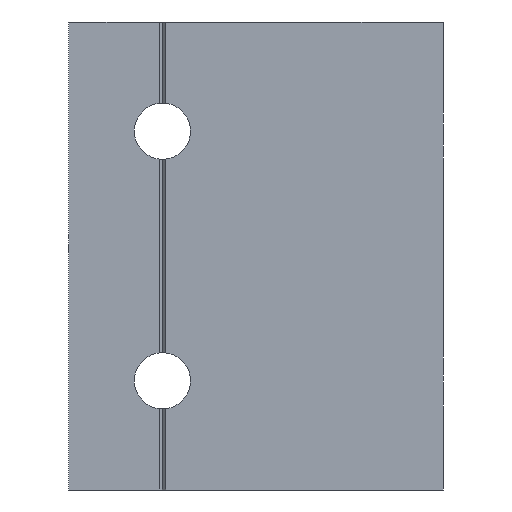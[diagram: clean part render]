
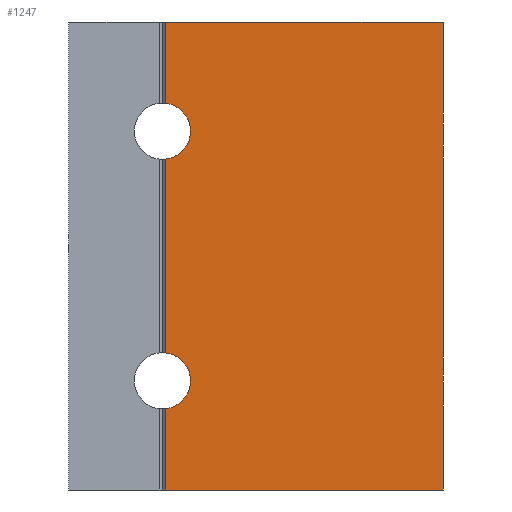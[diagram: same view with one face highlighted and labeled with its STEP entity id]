
A CAD part, left-side view. The second image highlights one B-rep face of the part: STEP entity #1247.
In plain terms, the highlighted planar face has unit normal (-1, 0, 0).
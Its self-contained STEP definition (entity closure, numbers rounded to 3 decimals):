
#1 = CARTESIAN_POINT ( 'NONE',  ( -30., 15., 7.5 ) ) ;
#25 = EDGE_CURVE ( 'NONE', #1886, #493, #2036, .T. ) ;
#88 = AXIS2_PLACEMENT_3D ( 'NONE', #1346, #555, #2142 ) ;
#112 = ORIENTED_EDGE ( 'NONE', *, *, #1434, .T. ) ;
#119 = CARTESIAN_POINT ( 'NONE',  ( -30., -30., -50. ) ) ;
#121 = CARTESIAN_POINT ( 'NONE',  ( -30., 10.5, 7.5 ) ) ;
#186 = DIRECTION ( 'NONE',  ( 1., 0., 0. ) ) ;
#211 = CIRCLE ( 'NONE', #88, 4.5 ) ;
#218 = ORIENTED_EDGE ( 'NONE', *, *, #2043, .F. ) ;
#221 = CARTESIAN_POINT ( 'NONE',  ( -30., 15., -32.5 ) ) ;
#246 = ORIENTED_EDGE ( 'NONE', *, *, #1135, .T. ) ;
#265 = VERTEX_POINT ( 'NONE', #2379 ) ;
#271 = CARTESIAN_POINT ( 'NONE',  ( -30., 14.5, -50. ) ) ;
#357 = AXIS2_PLACEMENT_3D ( 'NONE', #1818, #1256, #1478 ) ;
#364 = VERTEX_POINT ( 'NONE', #1182 ) ;
#394 = AXIS2_PLACEMENT_3D ( 'NONE', #2271, #633, #2229 ) ;
#448 = CARTESIAN_POINT ( 'NONE',  ( -30., 14.5, 25. ) ) ;
#468 = FACE_OUTER_BOUND ( 'NONE', #1592, .T. ) ;
#478 = LINE ( 'NONE', #1043, #1127 ) ;
#493 = VERTEX_POINT ( 'NONE', #271 ) ;
#524 = ORIENTED_EDGE ( 'NONE', *, *, #25, .T. ) ;
#526 = DIRECTION ( 'NONE',  ( 0., 1., 0. ) ) ;
#537 = LINE ( 'NONE', #119, #1541 ) ;
#555 = DIRECTION ( 'NONE',  ( 1., 0., 0. ) ) ;
#594 = ORIENTED_EDGE ( 'NONE', *, *, #2253, .T. ) ;
#625 = EDGE_CURVE ( 'NONE', #1757, #1822, #943, .T. ) ;
#633 = DIRECTION ( 'NONE',  ( 1., 0., 0. ) ) ;
#636 = DIRECTION ( 'NONE',  ( 0., 0., -1. ) ) ;
#662 = CARTESIAN_POINT ( 'NONE',  ( -30., 10.5, -32.5 ) ) ;
#665 = CARTESIAN_POINT ( 'NONE',  ( -30., 14.5, 25. ) ) ;
#676 = PLANE ( 'NONE',  #357 ) ;
#749 = VECTOR ( 'NONE', #636, 1000. ) ;
#779 = EDGE_CURVE ( 'NONE', #265, #2286, #2031, .T. ) ;
#833 = CARTESIAN_POINT ( 'NONE',  ( -30., 14.5, 25. ) ) ;
#848 = CARTESIAN_POINT ( 'NONE',  ( -30., 14.5, -28.028 ) ) ;
#926 = CARTESIAN_POINT ( 'NONE',  ( -30., -30., 25. ) ) ;
#943 = CIRCLE ( 'NONE', #1522, 4.5 ) ;
#1016 = DIRECTION ( 'NONE',  ( 0., 1., 0. ) ) ;
#1023 = CIRCLE ( 'NONE', #394, 4.5 ) ;
#1043 = CARTESIAN_POINT ( 'NONE',  ( -30., -30., 25. ) ) ;
#1082 = DIRECTION ( 'NONE',  ( 0., 1., 0. ) ) ;
#1127 = VECTOR ( 'NONE', #1082, 1000. ) ;
#1135 = EDGE_CURVE ( 'NONE', #2205, #1199, #2263, .T. ) ;
#1150 = ORIENTED_EDGE ( 'NONE', *, *, #1590, .T. ) ;
#1153 = AXIS2_PLACEMENT_3D ( 'NONE', #221, #186, #1016 ) ;
#1182 = CARTESIAN_POINT ( 'NONE',  ( -30., -30., 25. ) ) ;
#1199 = VERTEX_POINT ( 'NONE', #662 ) ;
#1202 = EDGE_CURVE ( 'NONE', #2286, #1757, #1023, .T. ) ;
#1231 = VERTEX_POINT ( 'NONE', #1296 ) ;
#1247 = ADVANCED_FACE ( 'NONE', ( #468 ), #676, .T. ) ;
#1256 = DIRECTION ( 'NONE',  ( -1., 0., 0. ) ) ;
#1296 = CARTESIAN_POINT ( 'NONE',  ( -30., -30., -50. ) ) ;
#1346 = CARTESIAN_POINT ( 'NONE',  ( -30., 15., -32.5 ) ) ;
#1355 = VECTOR ( 'NONE', #1604, 1000. ) ;
#1422 = DIRECTION ( 'NONE',  ( 0., 0., -1. ) ) ;
#1434 = EDGE_CURVE ( 'NONE', #1199, #1886, #211, .T. ) ;
#1478 = DIRECTION ( 'NONE',  ( 0., -1., 0. ) ) ;
#1522 = AXIS2_PLACEMENT_3D ( 'NONE', #1, #1560, #1925 ) ;
#1531 = LINE ( 'NONE', #926, #1661 ) ;
#1541 = VECTOR ( 'NONE', #526, 1000. ) ;
#1560 = DIRECTION ( 'NONE',  ( 1., 0., 0. ) ) ;
#1590 = EDGE_CURVE ( 'NONE', #364, #265, #478, .T. ) ;
#1592 = EDGE_LOOP ( 'NONE', ( #1861, #2557, #594, #246, #112, #524, #1686, #218, #1150, #2040 ) ) ;
#1604 = DIRECTION ( 'NONE',  ( 0., 0., -1. ) ) ;
#1644 = CARTESIAN_POINT ( 'NONE',  ( -30., 14.5, 3.028 ) ) ;
#1661 = VECTOR ( 'NONE', #2314, 1000. ) ;
#1686 = ORIENTED_EDGE ( 'NONE', *, *, #1961, .F. ) ;
#1757 = VERTEX_POINT ( 'NONE', #121 ) ;
#1818 = CARTESIAN_POINT ( 'NONE',  ( -30., -30., 25. ) ) ;
#1822 = VERTEX_POINT ( 'NONE', #1644 ) ;
#1861 = ORIENTED_EDGE ( 'NONE', *, *, #1202, .T. ) ;
#1886 = VERTEX_POINT ( 'NONE', #2413 ) ;
#1925 = DIRECTION ( 'NONE',  ( 0., 1., 0. ) ) ;
#1961 = EDGE_CURVE ( 'NONE', #1231, #493, #537, .T. ) ;
#2031 = LINE ( 'NONE', #448, #1355 ) ;
#2036 = LINE ( 'NONE', #833, #2095 ) ;
#2040 = ORIENTED_EDGE ( 'NONE', *, *, #779, .T. ) ;
#2043 = EDGE_CURVE ( 'NONE', #364, #1231, #1531, .T. ) ;
#2095 = VECTOR ( 'NONE', #1422, 1000. ) ;
#2142 = DIRECTION ( 'NONE',  ( 0., 1., 0. ) ) ;
#2205 = VERTEX_POINT ( 'NONE', #848 ) ;
#2229 = DIRECTION ( 'NONE',  ( 0., 1., 0. ) ) ;
#2231 = LINE ( 'NONE', #665, #749 ) ;
#2246 = CARTESIAN_POINT ( 'NONE',  ( -30., 14.5, 11.972 ) ) ;
#2253 = EDGE_CURVE ( 'NONE', #1822, #2205, #2231, .T. ) ;
#2263 = CIRCLE ( 'NONE', #1153, 4.5 ) ;
#2271 = CARTESIAN_POINT ( 'NONE',  ( -30., 15., 7.5 ) ) ;
#2286 = VERTEX_POINT ( 'NONE', #2246 ) ;
#2314 = DIRECTION ( 'NONE',  ( 0., 0., -1. ) ) ;
#2379 = CARTESIAN_POINT ( 'NONE',  ( -30., 14.5, 25. ) ) ;
#2413 = CARTESIAN_POINT ( 'NONE',  ( -30., 14.5, -36.972 ) ) ;
#2557 = ORIENTED_EDGE ( 'NONE', *, *, #625, .T. ) ;
